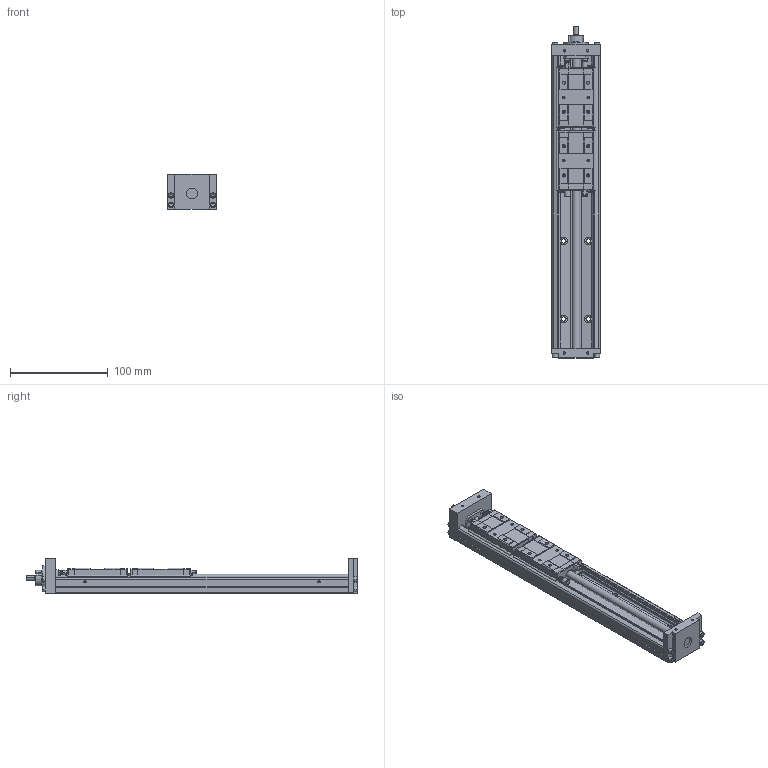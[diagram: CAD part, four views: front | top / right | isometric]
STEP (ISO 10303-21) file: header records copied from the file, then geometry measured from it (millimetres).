
FILE_DESCRIPTION(('no description'),'unknown implementation level');
FILE_NAME('KK5002P300A2H0000_FILE_22.stp',' ',('HIWIN GmbH'),('CADClick - KiM GmbH - www.kimweb.de'),'unknown preprocess','ACIS','unknown authorization');
FILE_SCHEMA(('automotive_design'));
Length unit declared in the file: millimetre
Products named in the file (3): KK5002P300A2H0000_FILE_1; KK50_FILE; KK5002P300A2H0000_FILE
Bounding box: 50 x 340.5 x 36 mm (x, y, z)
Volume: 265429.7 mm3; surface area: 87552.5 mm2
Topology: 3 solids, 15 shells, 929 faces, 2368 edges, 1497 vertices
Faces by surface type: plane 560, cylinder 247, cone 70, torus 52
Entity records: 55267 total; most frequent: CARTESIAN_POINT 5751, DIRECTION 4880, STYLED_ITEM 4759, PRESENTATION_STYLE_ASSIGNMENT 4759, COLOUR_RGB 4759, ORIENTED_EDGE 4660, EDGE_CURVE 2330, CURVE_STYLE 2330
